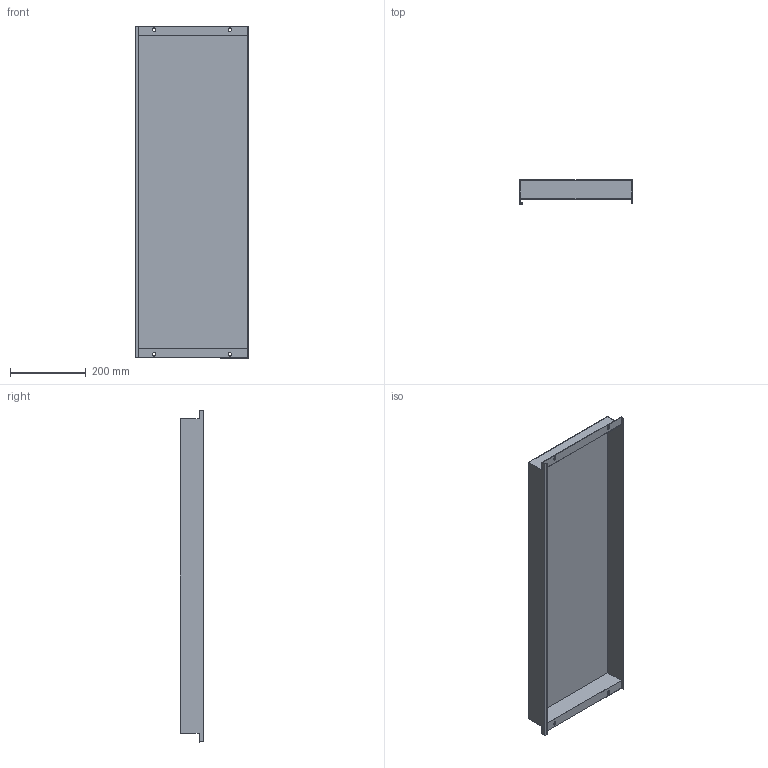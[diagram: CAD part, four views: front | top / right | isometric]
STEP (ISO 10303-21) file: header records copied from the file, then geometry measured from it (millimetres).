
FILE_DESCRIPTION (( 'STEP AP214' ), '1' );
FILE_NAME ('FO-00-PVSU-030-100 Ïëàñòðîí âíóòðåííèé óãëóáëåííûé 300õ1000õ50.STEP', '2025-08-26T11:45:06', ( '' ), ( '' ), 'SwSTEP 2.0', 'SolidWorks 2023', '' );
FILE_SCHEMA (( 'AUTOMOTIVE_DESIGN' ));
Length unit declared in the file: millimetre
Products named in the file (1): FO-00-PVSU-030-100 Пластрон внутренний углубленный 300х1000х50
Bounding box: 298 x 62.5 x 879 mm (x, y, z)
Volume: 556599.9 mm3; surface area: 798668.2 mm2
Topology: 1 solids, 1 shells, 42 faces, 120 edges, 80 vertices
Faces by surface type: plane 30, cylinder 12
Entity records: 1407 total; most frequent: CARTESIAN_POINT 243, ORIENTED_EDGE 240, DIRECTION 230, EDGE_CURVE 120, VECTOR 96, LINE 96, VERTEX_POINT 80, AXIS2_PLACEMENT_3D 67
